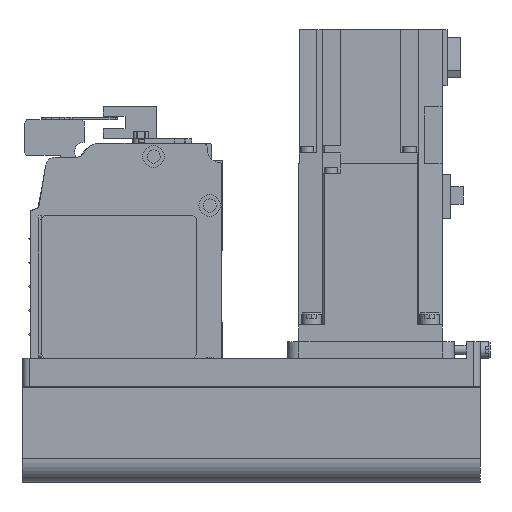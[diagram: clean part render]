
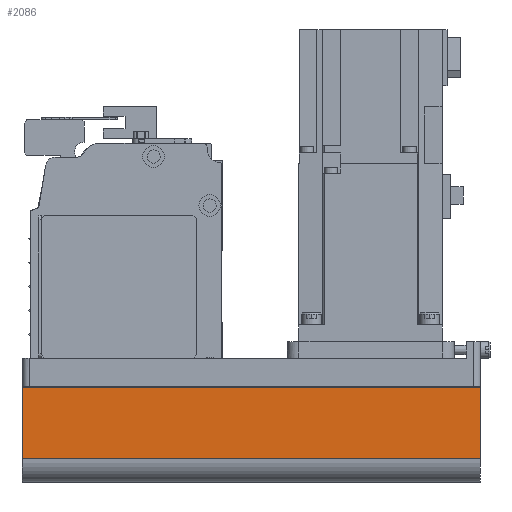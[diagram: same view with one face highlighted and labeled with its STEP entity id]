
A CAD part, left-side view. The second image highlights one B-rep face of the part: STEP entity #2086.
In plain terms, the highlighted planar face has unit normal (-1, 0, 0) as drawn and (0, 1, 0) by its records, which use the part's own axes.
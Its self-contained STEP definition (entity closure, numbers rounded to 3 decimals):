
#2086 = ADVANCED_FACE( '', ( #4366 ), #4367, .T. );
#4366 = FACE_OUTER_BOUND( '', #6782, .T. );
#4367 = PLANE( '', #6783 );
#6782 = EDGE_LOOP( '', ( #12506, #12507, #12508, #12509 ) );
#6783 = AXIS2_PLACEMENT_3D( '', #12510, #12511, #12512 );
#12506 = ORIENTED_EDGE( '', *, *, #15493, .F. );
#12507 = ORIENTED_EDGE( '', *, *, #13718, .F. );
#12508 = ORIENTED_EDGE( '', *, *, #14718, .T. );
#12509 = ORIENTED_EDGE( '', *, *, #15960, .T. );
#12510 = CARTESIAN_POINT( '', ( -192., 40., -42. ) );
#12511 = DIRECTION( '', ( 0., 1., 0. ) );
#12512 = DIRECTION( '', ( 0., 0., 1. ) );
#13718 = EDGE_CURVE( '', #16243, #16239, #16245, .T. );
#14718 = EDGE_CURVE( '', #16243, #17395, #17946, .T. );
#15493 = EDGE_CURVE( '', #16239, #19056, #19057, .T. );
#15960 = EDGE_CURVE( '', #17395, #19056, #19632, .T. );
#16239 = VERTEX_POINT( '', #19949 );
#16243 = VERTEX_POINT( '', #19954 );
#16245 = LINE( '', #19956, #19957 );
#17395 = VERTEX_POINT( '', #21473 );
#17946 = LINE( '', #22208, #22209 );
#19056 = VERTEX_POINT( '', #23722 );
#19057 = LINE( '', #23723, #23724 );
#19632 = LINE( '', #24502, #24503 );
#19949 = CARTESIAN_POINT( '', ( 0., 40., -42. ) );
#19954 = CARTESIAN_POINT( '', ( -192., 40., -42. ) );
#19956 = CARTESIAN_POINT( '', ( -192., 40., -42. ) );
#19957 = VECTOR( '', #24823, 1000. );
#21473 = CARTESIAN_POINT( '', ( -192., 40., -12.1 ) );
#22208 = CARTESIAN_POINT( '', ( -192., 40., -42. ) );
#22209 = VECTOR( '', #26157, 1000. );
#23722 = CARTESIAN_POINT( '', ( 0., 40., -12.1 ) );
#23723 = CARTESIAN_POINT( '', ( 0., 40., -42. ) );
#23724 = VECTOR( '', #27059, 1000. );
#24502 = CARTESIAN_POINT( '', ( -192., 40., -12.1 ) );
#24503 = VECTOR( '', #27470, 1000. );
#24823 = DIRECTION( '', ( 1., 0., 0. ) );
#26157 = DIRECTION( '', ( 0., 0., 1. ) );
#27059 = DIRECTION( '', ( 0., 0., 1. ) );
#27470 = DIRECTION( '', ( 1., 0., 0. ) );
